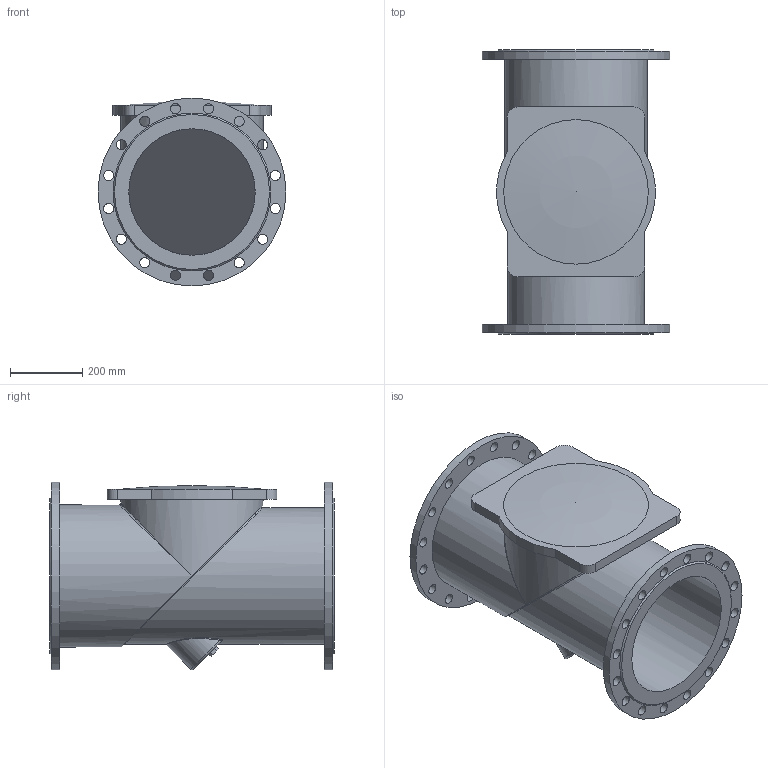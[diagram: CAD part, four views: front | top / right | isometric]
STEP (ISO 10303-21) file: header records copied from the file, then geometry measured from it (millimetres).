
FILE_DESCRIPTION(('STEP AP203'), '1');
FILE_NAME('Êëàïàí îäíîñòâîð÷àòûé îáðàòíûé ôëàíöåâûé 015F.Z DN350 PN16', '', ('UNSPECIFIED'), ('UNSPECIFIED'), 'ASCON STEP Converter 1.6', 'ASCON Math Kernel', '');
FILE_SCHEMA(('CONFIG_CONTROL_DESIGN'));
Length unit declared in the file: millimetre
Bounding box: 520 x 787 x 520 mm (x, y, z)
Volume: 31106431.1 mm3; surface area: 2880180 mm2
Topology: 1 solids, 2 shells, 86 faces, 207 edges, 134 vertices
Faces by surface type: cylinder 49, plane 27, bspline 6, cone 2, torus 1, sphere 1
Full cylindrical faces by diameter (mm): 28 x32, 350 x2, 365 x1, 378 x1, 393 x2, 520 x2
Entity records: 4715 total; most frequent: CARTESIAN_POINT 2028, DIRECTION 394, ORIENTED_EDGE 320, EDGE_LOOP 205, AXIS2_PLACEMENT_3D 176, EDGE_CURVE 160, VERTEX_POINT 133, FACE_BOUND 120
